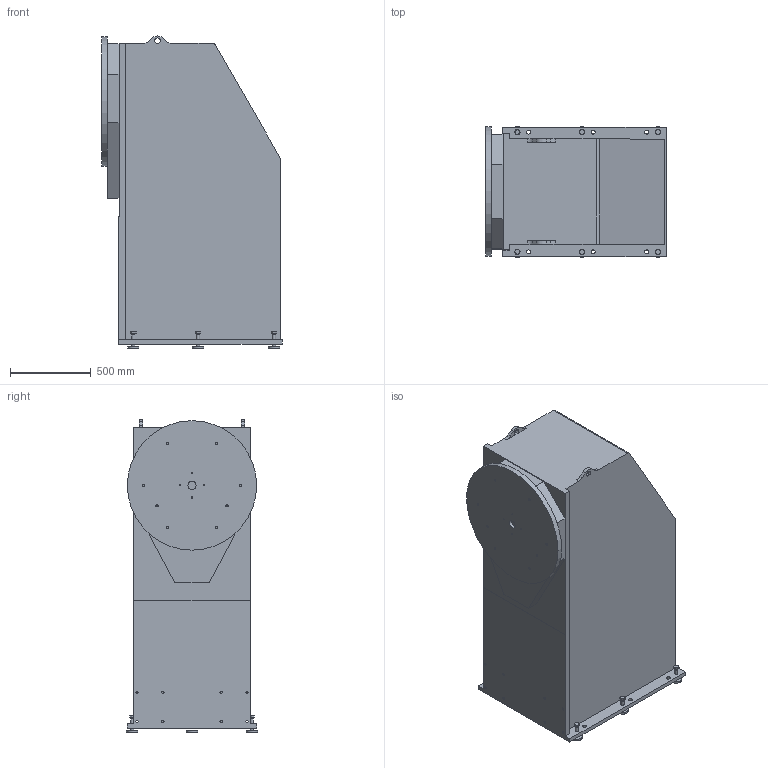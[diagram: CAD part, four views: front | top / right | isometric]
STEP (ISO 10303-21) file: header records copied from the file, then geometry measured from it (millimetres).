
FILE_DESCRIPTION((''),'2;1');
FILE_NAME('S:\Manipulatorer\Produkter\Layout symboler\HSB\114858-102 HSB-5000 SN (STEP).stp','2008-06-17T10:34:37',('Devellkrso'),(''),'Autodesk Inventor 2008','Autodesk Inventor 2008','');
FILE_SCHEMA(('AUTOMOTIVE_DESIGN { 1 0 10303 214 1 1 1 1 }'));
Length unit declared in the file: millimetre
Products named in the file (1): 114858-102 HSB-5000 SN (low-res)
Bounding box: 1114 x 810 x 1929.75 mm (x, y, z)
Volume: 1175129054.9 mm3; surface area: 8980944.3 mm2
Topology: 11 solids, 11 shells, 277 faces, 633 edges, 421 vertices
Faces by surface type: plane 127, cylinder 89, bspline 37, cone 24
Full cylindrical faces by diameter (mm): 6.8 x4, 14 x8, 20 x18, 28.19 x6, 50 x1, 70 x7, 130 x1, 800 x1
Entity records: 8001 total; most frequent: CARTESIAN_POINT 1823, DIRECTION 1214, ORIENTED_EDGE 1044, EDGE_CURVE 522, AXIS2_PLACEMENT_3D 499, EDGE_LOOP 456, VERTEX_POINT 396, FACE_OUTER_BOUND 277
